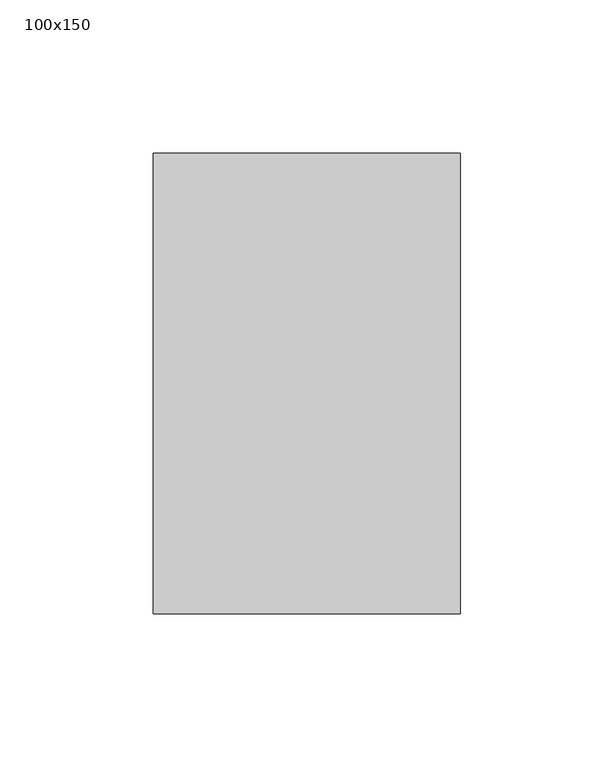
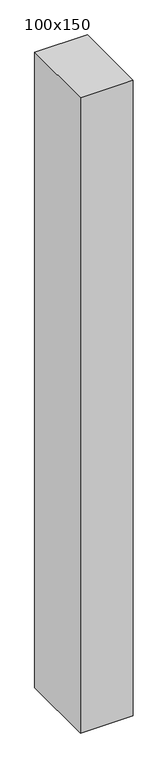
"""IFC4 building model written with IfcOpenShell, lengths in millimetres: member geometry, 長方形のマリオン : 100x150."""

from ifc_helpers import new_model, si_unit, frame, origin, place, context, project, spatial, polyline, outline, extrude, source, transform, mapped, element, save


def member_100x150_b54df6fd(model_context):
    return source(origin(), model_context, "Body", "SweptSolid", [
        extrude(outline(polyline([(50.0, 75.0), (50.0, -75.0), (-50.0, -75.0), (-50.0, 75.0), (50.0, 75.0)])), frame((0.0, 0.0, -1271.861911), z_axis=(0.0, 0.0, 1.0), x_axis=(1.0, 0.0, 0.0)), (0.0, 0.0, 1.0), 1271.861911),
    ])


if __name__ == "__main__":
    model = new_model("IFC4")
    model_context = context("Model", 3, world=origin())
    ifc_project = project(units=[si_unit("LENGTHUNIT", "METRE", prefix="MILLI")], contexts=[model_context])
    site = spatial("IfcSite", under=ifc_project)
    building = spatial("IfcBuilding", under=site)
    placement = place(None, origin())
    member_100x150_shape = member_100x150_b54df6fd(model_context)
    element("IfcMember", 1, ObjectType="長方形のマリオン : 100x150", at=placement, inside=building, context=model_context, shape_type="MappedRepresentation", body=[
        mapped(member_100x150_shape, transform((0.0, 0.0, 0.0), x_axis=(1.0, 0.0, 0.0), y_axis=(0.0, 1.0, 0.0), z_axis=(0.0, 0.0, 1.0))),
    ])
    save(model, "model.ifc")
